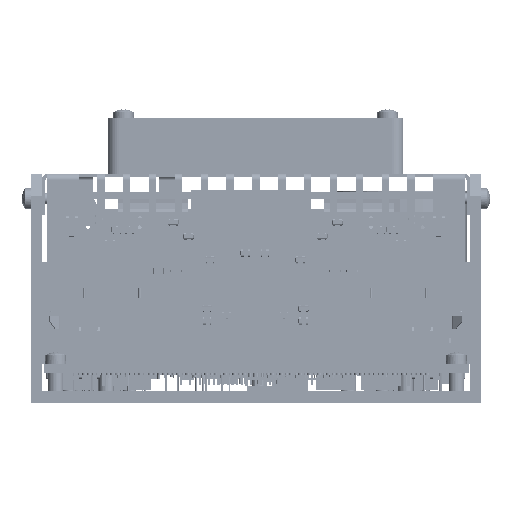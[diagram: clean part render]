
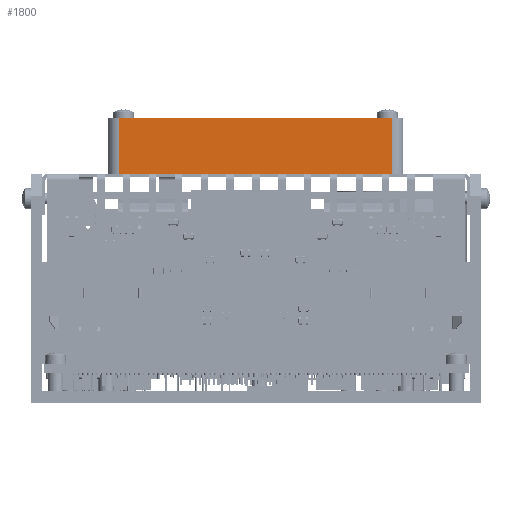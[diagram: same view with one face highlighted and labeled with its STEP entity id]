
A CAD part, front view. The second image highlights one B-rep face of the part: STEP entity #1800.
In plain terms, the highlighted planar face has unit normal (0, -1, 0).
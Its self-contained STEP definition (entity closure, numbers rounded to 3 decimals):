
#5=DIRECTION('',(-1.,0.,0.));
#6=VECTOR('',#5,74.);
#7=CARTESIAN_POINT('',(37.,-40.,0.));
#8=LINE('',#7,#6);
#137=DIRECTION('',(-1.,0.,0.));
#138=VECTOR('',#137,74.);
#139=CARTESIAN_POINT('',(37.,-40.,15.));
#140=LINE('',#139,#138);
#243=DIRECTION('',(0.,0.,-1.));
#244=VECTOR('',#243,15.);
#245=CARTESIAN_POINT('',(37.,-40.,15.));
#246=LINE('',#245,#244);
#247=DIRECTION('',(0.,0.,1.));
#248=VECTOR('',#247,15.);
#249=CARTESIAN_POINT('',(-37.,-40.,0.));
#250=LINE('',#249,#248);
#1479=CARTESIAN_POINT('',(37.,-40.,15.));
#1481=VERTEX_POINT('',#1479);
#1483=CARTESIAN_POINT('',(37.,-40.,0.));
#1484=VERTEX_POINT('',#1483);
#1535=CARTESIAN_POINT('',(-37.,-40.,15.));
#1536=VERTEX_POINT('',#1535);
#1537=CARTESIAN_POINT('',(-37.,-40.,0.));
#1538=VERTEX_POINT('',#1537);
#1786=CARTESIAN_POINT('',(-40.,-40.,15.));
#1787=DIRECTION('',(0.,1.,0.));
#1788=DIRECTION('',(0.,0.,1.));
#1789=AXIS2_PLACEMENT_3D('',#1786,#1787,#1788);
#1790=PLANE('',#1789);
#1792=ORIENTED_EDGE('',*,*,#1791,.F.);
#1794=ORIENTED_EDGE('',*,*,#1793,.T.);
#1795=ORIENTED_EDGE('',*,*,#1704,.T.);
#1797=ORIENTED_EDGE('',*,*,#1796,.T.);
#1798=EDGE_LOOP('',(#1792,#1794,#1795,#1797));
#1799=FACE_OUTER_BOUND('',#1798,.F.);
#1704=EDGE_CURVE('',#1484,#1538,#8,.T.);
#1791=EDGE_CURVE('',#1481,#1536,#140,.T.);
#1793=EDGE_CURVE('',#1481,#1484,#246,.T.);
#1796=EDGE_CURVE('',#1538,#1536,#250,.T.);
#1800=ADVANCED_FACE('',(#1799),#1790,.F.);
